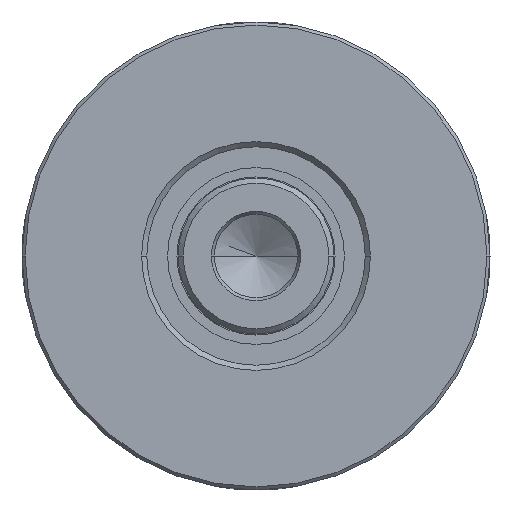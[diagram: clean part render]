
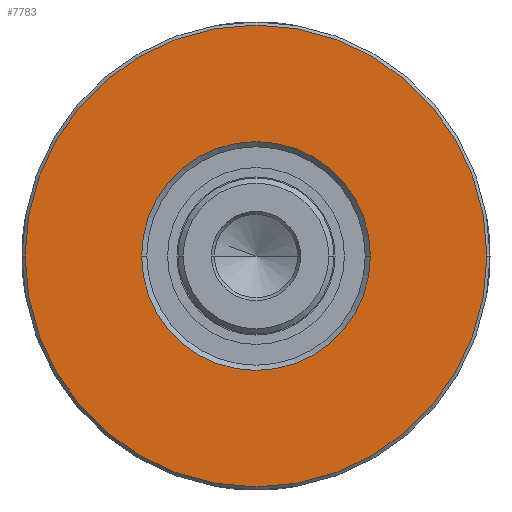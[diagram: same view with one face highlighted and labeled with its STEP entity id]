
A CAD part, left-side view. The second image highlights one B-rep face of the part: STEP entity #7783.
In plain terms, the highlighted planar face has unit normal (-1, 0, 0).
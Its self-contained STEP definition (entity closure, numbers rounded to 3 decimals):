
#7228=CARTESIAN_POINT('',(-3.,0.,0.));
#7229=DIRECTION('',(-1.,0.,0.));
#7230=DIRECTION('',(0.,1.,0.));
#7231=AXIS2_PLACEMENT_3D('',#7228,#7229,#7230);
#7236=CARTESIAN_POINT('',(-3.,0.,0.));
#7237=DIRECTION('',(1.,0.,0.));
#7238=DIRECTION('',(0.,1.,0.));
#7239=AXIS2_PLACEMENT_3D('',#7236,#7237,#7238);
#7244=CARTESIAN_POINT('',(-3.,0.,0.));
#7245=DIRECTION('',(1.,0.,0.));
#7246=DIRECTION('',(0.,1.,0.));
#7247=AXIS2_PLACEMENT_3D('',#7244,#7245,#7246);
#7266=CARTESIAN_POINT('',(-3.,0.,0.));
#7267=DIRECTION('',(-1.,0.,0.));
#7268=DIRECTION('',(0.,1.,0.));
#7269=AXIS2_PLACEMENT_3D('',#7266,#7267,#7268);
#7338=CARTESIAN_POINT('',(-3.,11.,0.));
#7339=VERTEX_POINT('',#7338);
#7340=CARTESIAN_POINT('',(-3.,-11.,0.));
#7341=VERTEX_POINT('',#7340);
#7342=CARTESIAN_POINT('',(-3.,22.2,0.));
#7343=VERTEX_POINT('',#7342);
#7344=CARTESIAN_POINT('',(-3.,-22.2,0.));
#7345=VERTEX_POINT('',#7344);
#7768=CARTESIAN_POINT('',(-3.,0.,0.));
#7769=DIRECTION('',(1.,0.,0.));
#7770=DIRECTION('',(0.,-1.,0.));
#7771=AXIS2_PLACEMENT_3D('',#7768,#7769,#7770);
#7772=PLANE('',#7771);
#7773=ORIENTED_EDGE('',*,*,#7747,.F.);
#7774=ORIENTED_EDGE('',*,*,#7763,.T.);
#7775=EDGE_LOOP('',(#7773,#7774));
#7776=FACE_OUTER_BOUND('',#7775,.F.);
#7778=ORIENTED_EDGE('',*,*,#7777,.F.);
#7780=ORIENTED_EDGE('',*,*,#7779,.T.);
#7781=EDGE_LOOP('',(#7778,#7780));
#7782=FACE_BOUND('',#7781,.F.);
#7232=CIRCLE('',#7231,22.2);
#7240=CIRCLE('',#7239,22.2);
#7248=CIRCLE('',#7247,11.);
#7270=CIRCLE('',#7269,11.);
#7747=EDGE_CURVE('',#7343,#7345,#7232,.T.);
#7763=EDGE_CURVE('',#7343,#7345,#7240,.T.);
#7777=EDGE_CURVE('',#7339,#7341,#7248,.T.);
#7779=EDGE_CURVE('',#7339,#7341,#7270,.T.);
#7783=ADVANCED_FACE('',(#7776,#7782),#7772,.F.);
